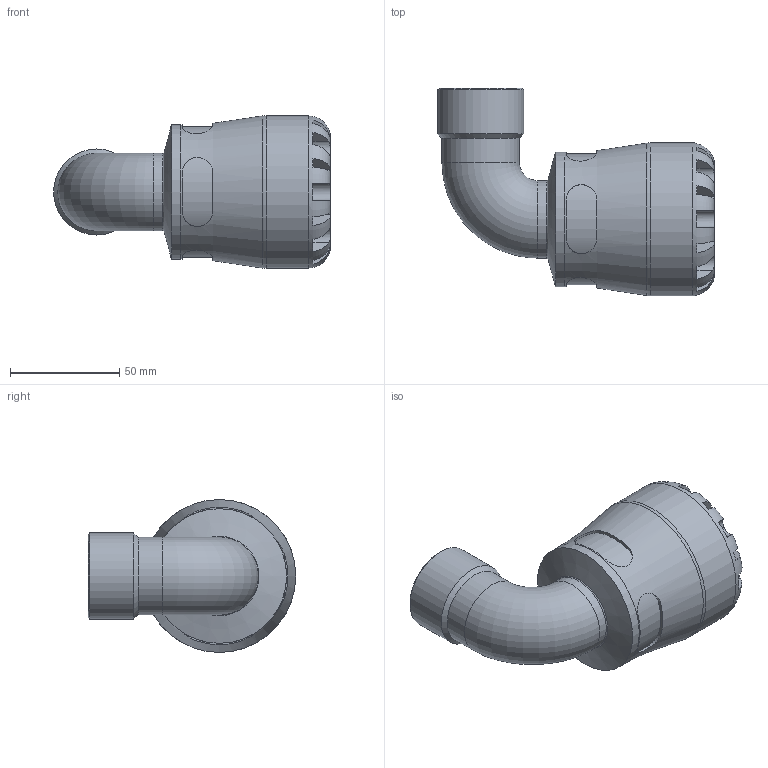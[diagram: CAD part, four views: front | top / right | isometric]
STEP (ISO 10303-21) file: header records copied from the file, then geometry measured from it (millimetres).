
FILE_DESCRIPTION(/* description */ ('PLASSON 90° ELBOW WITH FEMALE INTEGRAL BRASS 40X1" SERIES 1'),/* implementation_level */ '2;1');
FILE_NAME(/* name */ 'C:\Dropbox\KIMPROJECTS-Inventor\99-16-3568-Processing\1076\107600040010_197600040010.ipt.step',/* time_stamp */ '2017-05-18T12:03:32+03:00',/* author */ ('KIM'),/* organization */ (''),/* preprocessor_version */ 'ST-DEVELOPER v15.6',/* originating_system */ 'Autodesk Inventor 2015',/* authorisation */ '');
FILE_SCHEMA (('AUTOMOTIVE_DESIGN { 1 0 10303 214 3 1 1 }'));
Length unit declared in the file: millimetre
Products named in the file (1): 107600040010_197600040010
Bounding box: 126.69 x 95 x 70 mm (x, y, z)
Volume: 191153.8 mm3; surface area: 47957.8 mm2
Topology: 1 solids, 1 shells, 108 faces, 265 edges, 164 vertices
Faces by surface type: plane 60, cylinder 37, torus 6, cone 5
Full cylindrical faces by diameter (mm): 27.262 x2, 30.291 x1, 35.44 x2, 39.378 x1, 40 x1, 61.6 x1, 70 x1
Entity records: 3980 total; most frequent: CARTESIAN_POINT 1455, DIRECTION 488, ORIENTED_EDGE 478, EDGE_CURVE 239, AXIS2_PLACEMENT_3D 204, VERTEX_POINT 159, EDGE_LOOP 136, STYLED_ITEM 109
